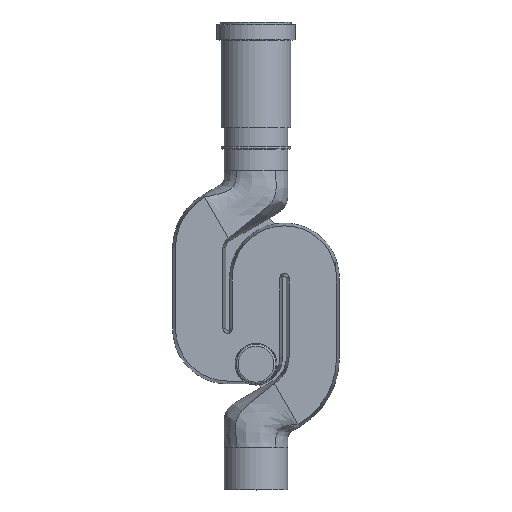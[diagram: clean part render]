
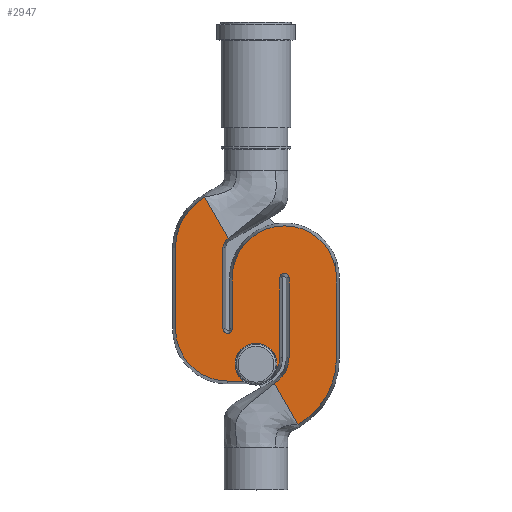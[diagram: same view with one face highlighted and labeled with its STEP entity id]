
A CAD part, top view. The second image highlights one B-rep face of the part: STEP entity #2947.
In plain terms, the highlighted planar face has unit normal (0, 0, 1).
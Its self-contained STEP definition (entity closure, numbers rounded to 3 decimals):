
#56=LINE('',#6017,#193);
#60=LINE('',#7920,#197);
#127=LINE('',#10763,#264);
#131=LINE('',#10772,#268);
#142=LINE('',#11416,#279);
#144=LINE('',#11420,#281);
#145=LINE('',#11424,#282);
#146=LINE('',#11429,#283);
#147=LINE('',#11434,#284);
#193=VECTOR('',#3392,82.);
#197=VECTOR('',#3396,82.);
#264=VECTOR('',#3631,88.);
#268=VECTOR('',#3641,140.);
#279=VECTOR('',#3670,49.);
#281=VECTOR('',#3674,137.);
#282=VECTOR('',#3677,137.926);
#283=VECTOR('',#3682,137.926);
#284=VECTOR('',#3687,140.);
#404=PLANE('',#3162);
#558=FACE_BOUND('',#858,.T.);
#559=FACE_BOUND('',#859,.T.);
#858=EDGE_LOOP('',(#2303));
#859=EDGE_LOOP('',(#2304,#2305,#2306,#2307,#2308,#2309,#2310,#2311,#2312,
#2313,#2314,#2315,#2316,#2317,#2318,#2319,#2320,#2321));
#993=CIRCLE('',#3051,28.5);
#1040=CIRCLE('',#3151,8.);
#1041=CIRCLE('',#3154,19.);
#1044=CIRCLE('',#3160,41.);
#1045=CIRCLE('',#3163,8.);
#1046=CIRCLE('',#3164,50.881);
#1047=CIRCLE('',#3165,132.881);
#1048=CIRCLE('',#3166,90.);
#1049=CIRCLE('',#3167,101.);
#1050=CIRCLE('',#3168,90.);
#1143=VERTEX_POINT('',#4090);
#1191=VERTEX_POINT('',#5960);
#1192=VERTEX_POINT('',#6016);
#1209=VERTEX_POINT('',#7587);
#1215=VERTEX_POINT('',#7876);
#1302=VERTEX_POINT('',#10760);
#1303=VERTEX_POINT('',#10762);
#1304=VERTEX_POINT('',#10766);
#1305=VERTEX_POINT('',#10770);
#1315=VERTEX_POINT('',#11409);
#1316=VERTEX_POINT('',#11411);
#1317=VERTEX_POINT('',#11415);
#1318=VERTEX_POINT('',#11419);
#1319=VERTEX_POINT('',#11421);
#1320=VERTEX_POINT('',#11423);
#1321=VERTEX_POINT('',#11426);
#1322=VERTEX_POINT('',#11428);
#1323=VERTEX_POINT('',#11431);
#1324=VERTEX_POINT('',#11433);
#1431=EDGE_CURVE('',#1143,#1143,#993,.T.);
#1486=EDGE_CURVE('',#1192,#1191,#56,.T.);
#1517=EDGE_CURVE('',#1215,#1209,#60,.T.);
#1655=EDGE_CURVE('',#1303,#1302,#127,.T.);
#1658=EDGE_CURVE('',#1302,#1304,#1040,.T.);
#1660=EDGE_CURVE('',#1304,#1305,#131,.T.);
#1662=EDGE_CURVE('',#1305,#1192,#1041,.T.);
#1679=EDGE_CURVE('',#1315,#1316,#1044,.T.);
#1681=EDGE_CURVE('',#1316,#1317,#142,.T.);
#1683=EDGE_CURVE('',#1318,#1315,#144,.T.);
#1684=EDGE_CURVE('',#1319,#1318,#1045,.T.);
#1685=EDGE_CURVE('',#1320,#1319,#145,.T.);
#1686=EDGE_CURVE('',#1209,#1320,#1046,.T.);
#1687=EDGE_CURVE('',#1215,#1321,#1047,.T.);
#1688=EDGE_CURVE('',#1321,#1322,#146,.T.);
#1689=EDGE_CURVE('',#1322,#1303,#1048,.T.);
#1690=EDGE_CURVE('',#1323,#1191,#1049,.T.);
#1691=EDGE_CURVE('',#1324,#1323,#147,.T.);
#1692=EDGE_CURVE('',#1317,#1324,#1050,.T.);
#2303=ORIENTED_EDGE('',*,*,#1431,.T.);
#2304=ORIENTED_EDGE('',*,*,#1683,.F.);
#2305=ORIENTED_EDGE('',*,*,#1684,.F.);
#2306=ORIENTED_EDGE('',*,*,#1685,.F.);
#2307=ORIENTED_EDGE('',*,*,#1686,.F.);
#2308=ORIENTED_EDGE('',*,*,#1517,.F.);
#2309=ORIENTED_EDGE('',*,*,#1687,.T.);
#2310=ORIENTED_EDGE('',*,*,#1688,.T.);
#2311=ORIENTED_EDGE('',*,*,#1689,.T.);
#2312=ORIENTED_EDGE('',*,*,#1655,.T.);
#2313=ORIENTED_EDGE('',*,*,#1658,.T.);
#2314=ORIENTED_EDGE('',*,*,#1660,.T.);
#2315=ORIENTED_EDGE('',*,*,#1662,.T.);
#2316=ORIENTED_EDGE('',*,*,#1486,.T.);
#2317=ORIENTED_EDGE('',*,*,#1690,.F.);
#2318=ORIENTED_EDGE('',*,*,#1691,.F.);
#2319=ORIENTED_EDGE('',*,*,#1692,.F.);
#2320=ORIENTED_EDGE('',*,*,#1681,.F.);
#2321=ORIENTED_EDGE('',*,*,#1679,.F.);
#2947=ADVANCED_FACE('',(#558,#559),#404,.T.);
#3051=AXIS2_PLACEMENT_3D('',#4091,#3356,#3357);
#3151=AXIS2_PLACEMENT_3D('',#10768,#3636,#3637);
#3154=AXIS2_PLACEMENT_3D('',#10775,#3645,#3646);
#3160=AXIS2_PLACEMENT_3D('',#11412,#3665,#3666);
#3162=AXIS2_PLACEMENT_3D('',#11418,#3672,#3673);
#3163=AXIS2_PLACEMENT_3D('',#11422,#3675,#3676);
#3164=AXIS2_PLACEMENT_3D('',#11425,#3678,#3679);
#3165=AXIS2_PLACEMENT_3D('',#11427,#3680,#3681);
#3166=AXIS2_PLACEMENT_3D('',#11430,#3683,#3684);
#3167=AXIS2_PLACEMENT_3D('',#11432,#3685,#3686);
#3168=AXIS2_PLACEMENT_3D('',#11435,#3688,#3689);
#3356=DIRECTION('center_axis',(0.,0.,-1.));
#3357=DIRECTION('ref_axis',(-1.,0.,0.));
#3392=DIRECTION('',(-0.5,0.866,0.));
#3396=DIRECTION('',(-0.5,0.866,0.));
#3631=DIRECTION('',(0.,-1.,0.));
#3636=DIRECTION('center_axis',(0.,0.,-1.));
#3637=DIRECTION('ref_axis',(1.,0.,0.));
#3641=DIRECTION('',(0.,1.,0.));
#3645=DIRECTION('center_axis',(0.,0.,-1.));
#3646=DIRECTION('ref_axis',(0.5,-0.866,0.));
#3665=DIRECTION('center_axis',(0.,0.,-1.));
#3666=DIRECTION('ref_axis',(0.,-1.,0.));
#3670=DIRECTION('',(-1.,0.,0.));
#3672=DIRECTION('center_axis',(0.,0.,1.));
#3673=DIRECTION('ref_axis',(1.,0.,0.));
#3674=DIRECTION('',(0.,-1.,0.));
#3675=DIRECTION('center_axis',(0.,0.,1.));
#3676=DIRECTION('ref_axis',(1.,0.,0.));
#3677=DIRECTION('',(0.,1.,0.));
#3678=DIRECTION('center_axis',(0.,0.,1.));
#3679=DIRECTION('ref_axis',(0.5,-0.866,0.));
#3680=DIRECTION('center_axis',(0.,0.,1.));
#3681=DIRECTION('ref_axis',(0.5,-0.866,0.));
#3682=DIRECTION('',(0.,1.,0.));
#3683=DIRECTION('center_axis',(0.,0.,1.));
#3684=DIRECTION('ref_axis',(1.,0.,0.));
#3685=DIRECTION('center_axis',(0.,0.,-1.));
#3686=DIRECTION('ref_axis',(0.5,-0.866,0.));
#3687=DIRECTION('',(0.,1.,0.));
#3688=DIRECTION('center_axis',(0.,0.,-1.));
#3689=DIRECTION('ref_axis',(1.,0.,0.));
#4090=CARTESIAN_POINT('',(28.5,-105.,55.));
#4091=CARTESIAN_POINT('Origin',(0.,-105.,55.));
#5960=CARTESIAN_POINT('',(-88.5,183.469,55.));
#6016=CARTESIAN_POINT('',(-47.5,112.454,55.));
#6017=CARTESIAN_POINT('',(-47.5,112.454,55.));
#7587=CARTESIAN_POINT('',(31.559,-137.991,55.));
#7876=CARTESIAN_POINT('',(72.559,-209.005,55.));
#7920=CARTESIAN_POINT('',(72.559,-209.005,55.));
#10760=CARTESIAN_POINT('',(-41.,-44.,55.));
#10762=CARTESIAN_POINT('',(-41.,44.,55.));
#10763=CARTESIAN_POINT('',(-41.,44.,55.));
#10766=CARTESIAN_POINT('',(-57.,-44.,55.));
#10768=CARTESIAN_POINT('Origin',(-49.,-44.,55.));
#10770=CARTESIAN_POINT('',(-57.,96.,55.));
#10772=CARTESIAN_POINT('',(-57.,-44.,55.));
#10775=CARTESIAN_POINT('Origin',(-38.,96.,55.));
#11409=CARTESIAN_POINT('',(41.,-93.,55.));
#11411=CARTESIAN_POINT('',(0.,-134.,55.));
#11412=CARTESIAN_POINT('Origin',(0.,-93.,55.));
#11415=CARTESIAN_POINT('',(-49.,-134.,55.));
#11416=CARTESIAN_POINT('',(-49.,-134.,55.));
#11418=CARTESIAN_POINT('Origin',(52.059,-173.498,55.));
#11419=CARTESIAN_POINT('',(41.,44.,55.));
#11420=CARTESIAN_POINT('',(41.,44.,55.));
#11421=CARTESIAN_POINT('',(57.,44.,55.));
#11422=CARTESIAN_POINT('Origin',(49.,44.,55.));
#11423=CARTESIAN_POINT('',(57.,-93.926,55.));
#11424=CARTESIAN_POINT('',(57.,-93.926,55.));
#11425=CARTESIAN_POINT('Origin',(6.119,-93.926,55.));
#11426=CARTESIAN_POINT('',(139.,-93.926,55.));
#11427=CARTESIAN_POINT('Origin',(6.119,-93.926,55.));
#11428=CARTESIAN_POINT('',(139.,44.,55.));
#11429=CARTESIAN_POINT('',(139.,-93.926,55.));
#11430=CARTESIAN_POINT('Origin',(49.,44.,55.));
#11431=CARTESIAN_POINT('',(-139.,96.,55.));
#11432=CARTESIAN_POINT('Origin',(-38.,96.,55.));
#11433=CARTESIAN_POINT('',(-139.,-44.,55.));
#11434=CARTESIAN_POINT('',(-139.,-44.,55.));
#11435=CARTESIAN_POINT('Origin',(-49.,-44.,55.));
